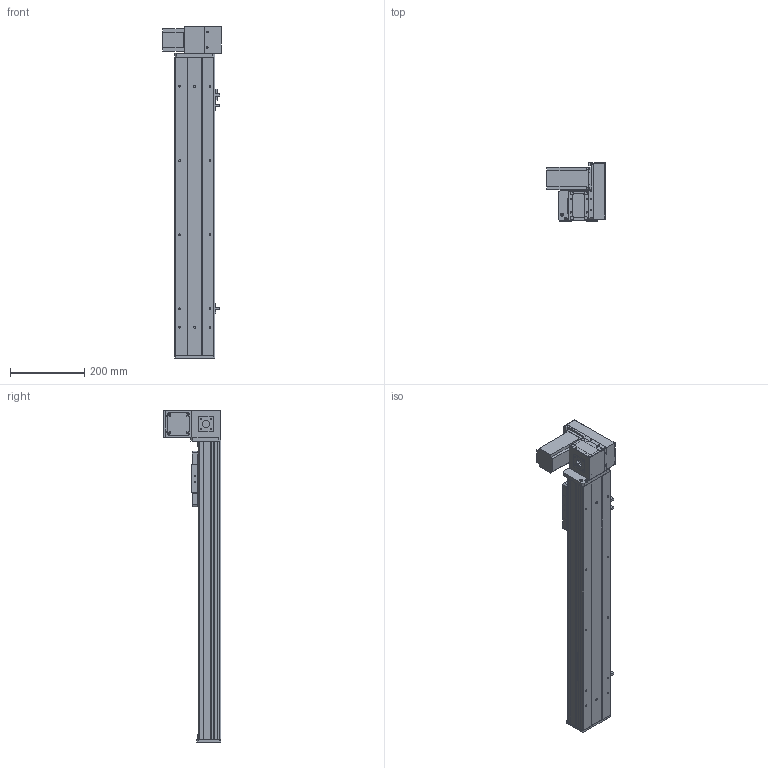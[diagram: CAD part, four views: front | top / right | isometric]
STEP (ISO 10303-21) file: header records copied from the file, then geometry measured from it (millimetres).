
FILE_DESCRIPTION (( 'STEP AP203' ), '1' );
FILE_NAME ('Y10CB-D90-S550-UR-P400W.STEP', '2020-02-16T03:08:37', ( '微软用户' ), ( '微软中国' ), 'SwSTEP 2.0', 'SolidWorks 2017', '' );
FILE_SCHEMA (( 'CONFIG_CONTROL_DESIGN' ));
Length unit declared in the file: millimetre
Products named in the file (18): Y135C-陔俋离換覜結え-; san松下电机400不带刹车----; Y100-135俋离換覜ん--; 0B-源倛裔啣; Y10B--々湍喘謫眊--666; 0B-埴倛裔啣; Y10B-耜蚾蟀諉啣----; 10CB-詩湍-; Y10CB-D90-S550-UR-P400W; 00B-俋欶BM--; Y10CB- 掛极耜裔啣-毀---; 0CB-雄赽釱---; Y10C---詩湍揤啣; 0Cb-俋欶---; 10CB9-掛极; Y10B-々湍喘謫眊楊擘啣--; 10CB-耜裔; 0B-萇儂楊擘啣
Assembly tree (21 placements, depth 2):
  Y10CB-D90-S550-UR-P400W
    0CB-雄赽釱---
    0Cb-俋欶---
    Y10B-々湍喘謫眊楊擘啣--
    0B-萇儂楊擘啣
    san松下电机400不带刹车----
    0B-源倛裔啣
    0B-埴倛裔啣
    10CB-詩湍-
    Y10CB- 掛极耜裔啣-毀---  x2
    Y10C---詩湍揤啣  x2
    10CB9-掛极
    10CB-耜裔
    Y135C-陔俋离換覜結え-
    Y100-135俋离換覜ん--  x3
    Y10B--々湍喘謫眊--666
    Y10B-耜蚾蟀諉啣----
    00B-俋欶BM--
Bounding box: 157 x 155.5 x 896 mm (x, y, z)
Volume: 2350534.7 mm3; surface area: 1015462.2 mm2
Topology: 21 solids, 21 shells, 966 faces, 2563 edges, 1682 vertices
Faces by surface type: plane 473, cylinder 469, cone 24
Entity records: 29912 total; most frequent: CARTESIAN_POINT 5173, DIRECTION 4862, ORIENTED_EDGE 4596, EDGE_CURVE 2298, AXIS2_PLACEMENT_3D 1741, VERTEX_POINT 1508, VECTOR 1380, LINE 1380
